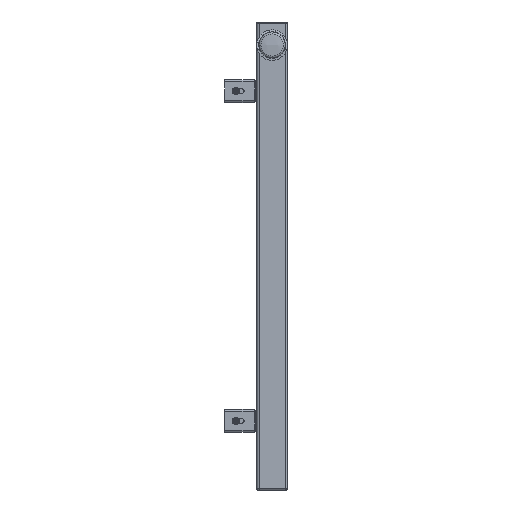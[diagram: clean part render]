
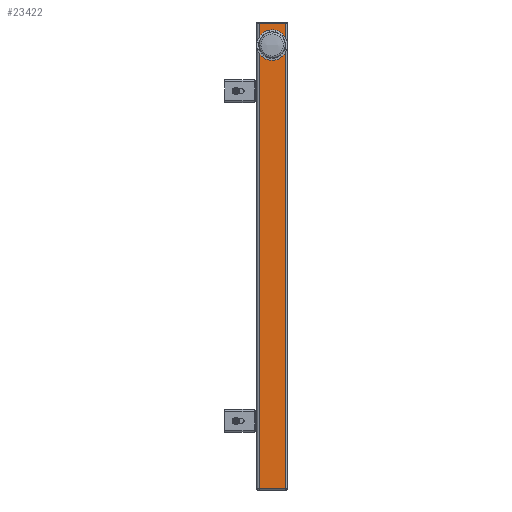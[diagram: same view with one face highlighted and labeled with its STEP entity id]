
A CAD part, left-side view. The second image highlights one B-rep face of the part: STEP entity #23422.
In plain terms, the highlighted planar face has unit normal (-1, 0, 0).
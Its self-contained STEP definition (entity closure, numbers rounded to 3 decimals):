
#22799=CARTESIAN_POINT('',(-40.,-17.0,1.5));
#22800=VERTEX_POINT('',#22799);
#22843=CARTESIAN_POINT('',(-40.,17.0,1.5));
#22844=VERTEX_POINT('',#22843);
#22861=CARTESIAN_POINT('',(-40.,-17.0,1.5));
#22862=DIRECTION('',(0.0,1.0,0.0));
#22863=VECTOR('',#22862,34.0);
#22864=LINE('',#22861,#22863);
#22865=EDGE_CURVE('',#22800,#22844,#22864,.T.);
#23369=CARTESIAN_POINT('',(-40.,17.0,608.5));
#23370=VERTEX_POINT('',#23369);
#23371=CARTESIAN_POINT('',(-40.,17.0,1.5));
#23372=DIRECTION('',(0.0,0.0,1.0));
#23373=VECTOR('',#23372,607.0);
#23374=LINE('',#23371,#23373);
#23375=EDGE_CURVE('',#22844,#23370,#23374,.T.);
#23388=CARTESIAN_POINT('',(-40.,-17.0,0.0));
#23389=DIRECTION('',(-1.0,0.0,0.0));
#23390=DIRECTION('',(0.0,0.0,1.0));
#23391=AXIS2_PLACEMENT_3D('',#23388,#23389,#23390);
#23392=PLANE('',#23391);
#23393=ORIENTED_EDGE('',*,*,#22865,.F.);
#23394=CARTESIAN_POINT('',(-40.,-17.0,608.5));
#23395=VERTEX_POINT('',#23394);
#23396=CARTESIAN_POINT('',(-40.,-17.0,1.5));
#23397=DIRECTION('',(0.0,0.0,1.0));
#23398=VECTOR('',#23397,607.0);
#23399=LINE('',#23396,#23398);
#23400=EDGE_CURVE('',#22800,#23395,#23399,.T.);
#23401=ORIENTED_EDGE('',*,*,#23400,.T.);
#23402=CARTESIAN_POINT('',(-40.,17.,608.5));
#23403=DIRECTION('',(0.0,-1.0,0.0));
#23404=VECTOR('',#23403,34.0);
#23405=LINE('',#23402,#23404);
#23406=EDGE_CURVE('',#23370,#23395,#23405,.T.);
#23407=ORIENTED_EDGE('',*,*,#23406,.F.);
#23408=ORIENTED_EDGE('',*,*,#23375,.F.);
#23409=EDGE_LOOP('',(#23393,#23401,#23407,#23408));
#23410=FACE_OUTER_BOUND('',#23409,.T.);
#23411=CARTESIAN_POINT('',(-40.,0.,595.0));
#23412=VERTEX_POINT('',#23411);
#23413=CARTESIAN_POINT('',(-40.,0.0,580.0));
#23414=DIRECTION('',(1.0,0.0,0.0));
#23415=DIRECTION('',(0.0,0.0,-1.0));
#23416=AXIS2_PLACEMENT_3D('',#23413,#23414,#23415);
#23417=CIRCLE('',#23416,15.0);
#23418=EDGE_CURVE('',#23412,#23412,#23417,.T.);
#23419=ORIENTED_EDGE('',*,*,#23418,.T.);
#23420=EDGE_LOOP('',(#23419));
#23421=FACE_BOUND('',#23420,.T.);
#23422=ADVANCED_FACE('',(#23410,#23421),#23392,.T.);
